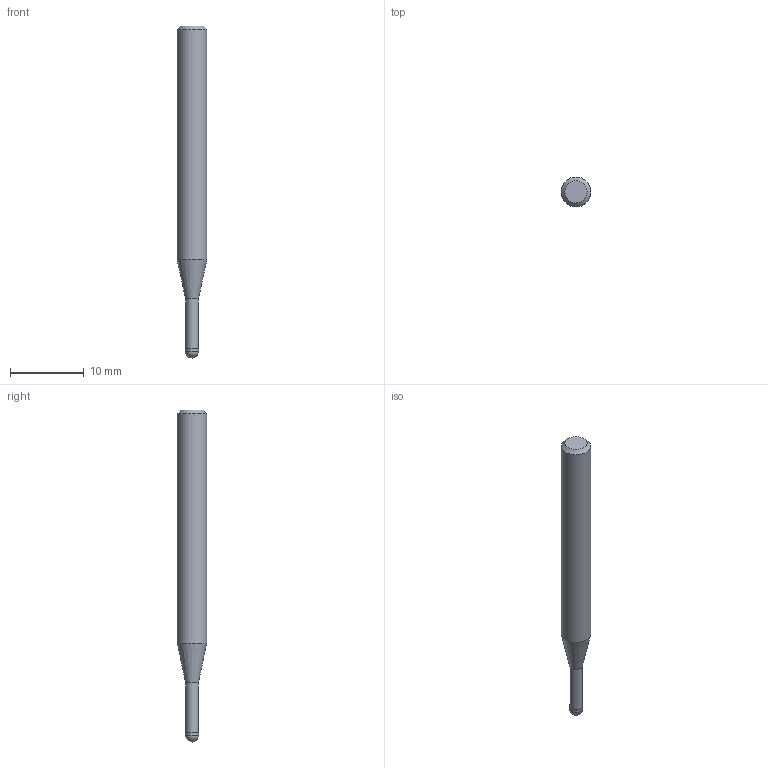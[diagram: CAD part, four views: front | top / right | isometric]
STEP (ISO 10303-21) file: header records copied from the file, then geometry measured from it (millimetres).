
FILE_DESCRIPTION((''),'2;1');
FILE_NAME('C:\Users\nsx150\AppData\Local\Temp\Mastercam 2021\ARV7HD45SN\TEMP.step','2023-06-13T16:36:59',(''),(''),'STEP Write','Mastercam 2021 ... CNC Software, Inc.','');
FILE_SCHEMA(('AUTOMOTIVE_DESIGN'));
Length unit declared in the file: millimetre
Products named in the file (1): None
Bounding box: 4 x 4 x 45 mm (x, y, z)
Volume: 451.4 mm3; surface area: 504.6 mm2
Topology: 2 solids, 2 shells, 9 faces, 14 edges, 8 vertices
Faces by surface type: plane 3, cylinder 3, cone 2, sphere 1
Full cylindrical faces by diameter (mm): 1.74 x1, 1.8 x1, 4 x1
Entity records: 211 total; most frequent: DIRECTION 36, CARTESIAN_POINT 25, AXIS2_PLACEMENT_3D 18, ORIENTED_EDGE 14, EDGE_LOOP 14, STYLED_ITEM 12, ADVANCED_FACE 9, FACE_BOUND 8
